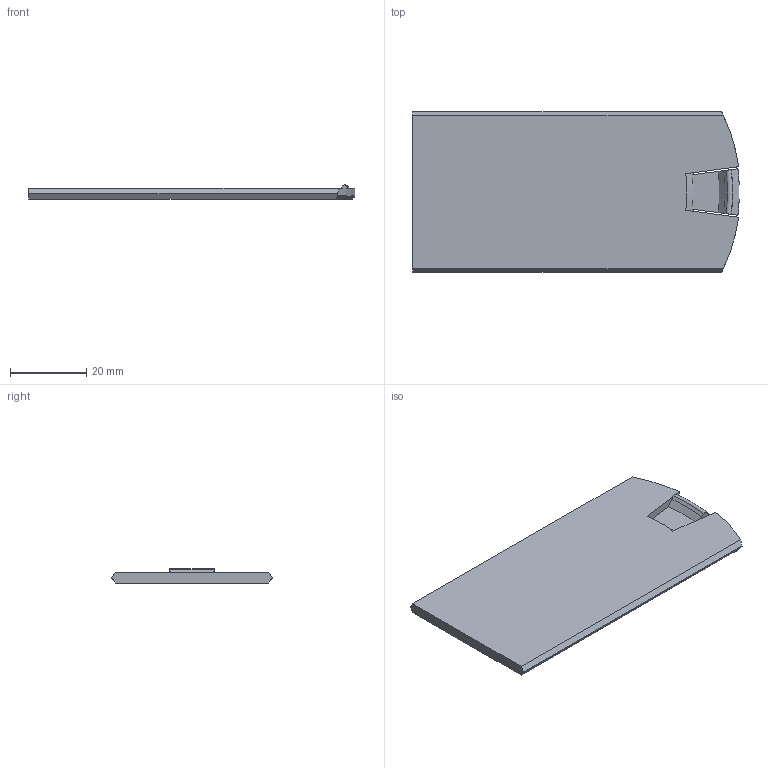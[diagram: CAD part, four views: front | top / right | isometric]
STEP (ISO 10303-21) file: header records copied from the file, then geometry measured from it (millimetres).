
FILE_DESCRIPTION(/* description */ (''),/* implementation_level */ '2;1');
FILE_NAME(/* name */ 'Battery_cover.stp',/* time_stamp */ '2019-01-13T14:27:26+01:00',/* author */ (''),/* organization */ (''),/* preprocessor_version */ 'ST-DEVELOPER v16',/* originating_system */ 'SIEMENS PLM Software NX 11.0',/* authorisation */ '');
FILE_SCHEMA (('AUTOMOTIVE_DESIGN { 1 0 10303 214 3 1 1 1 }'));
Length unit declared in the file: millimetre
Products named in the file (1): Battery_cover
Bounding box: 85.7 x 42.16 x 3.69 mm (x, y, z)
Volume: 9558.1 mm3; surface area: 7663.6 mm2
Topology: 1 solids, 1 shells, 26 faces, 72 edges, 48 vertices
Faces by surface type: plane 12, cone 7, cylinder 4, torus 3
Entity records: 876 total; most frequent: CARTESIAN_POINT 165, DIRECTION 150, ORIENTED_EDGE 144, EDGE_CURVE 72, AXIS2_PLACEMENT_3D 57, VERTEX_POINT 48, LINE 36, VECTOR 36
